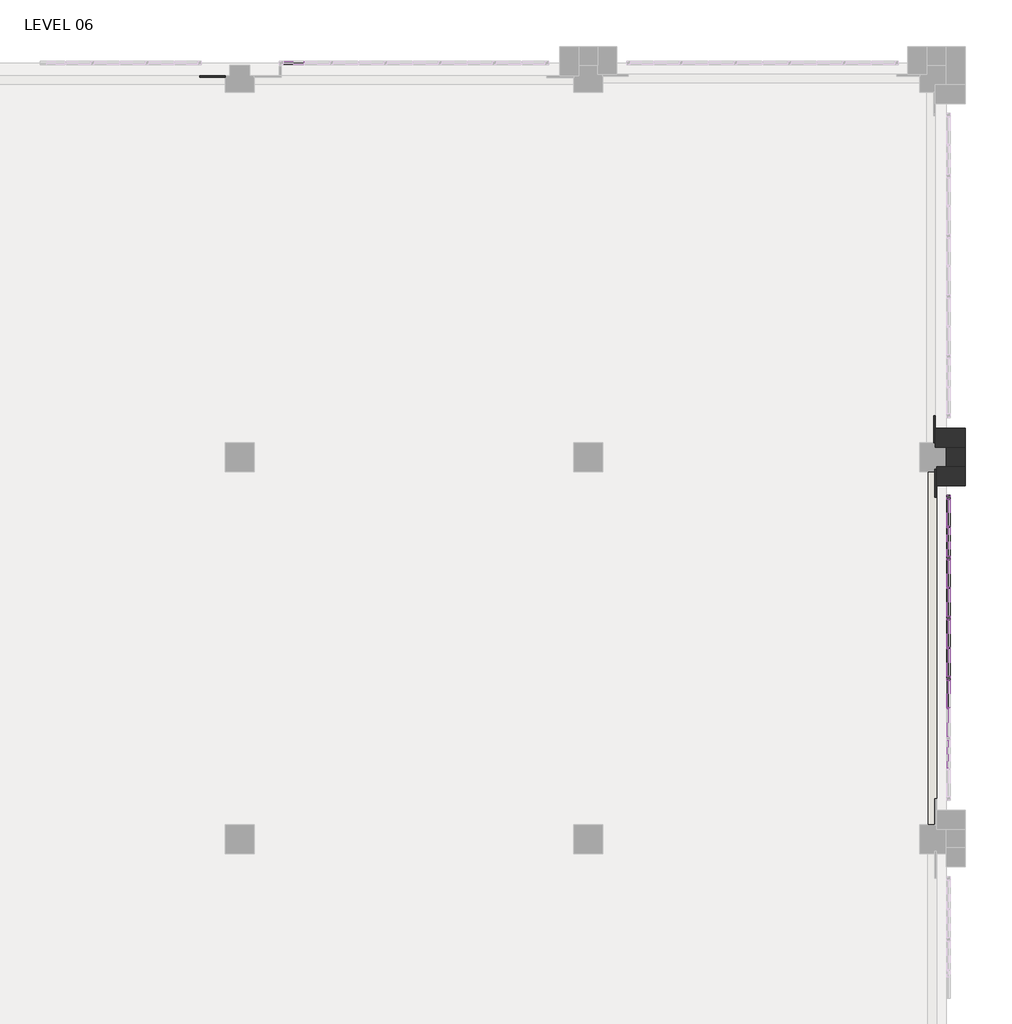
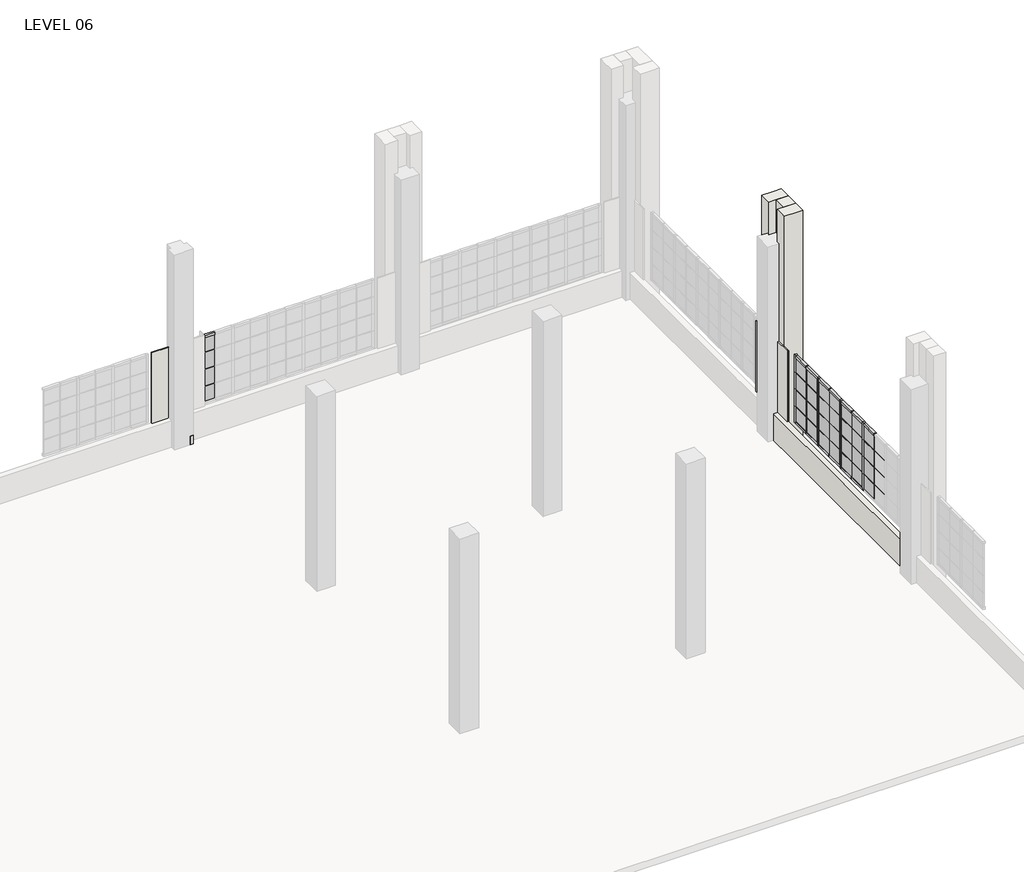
# One storey, part 12 of 16: 72 members, 32 plates, 9 walls.
"""IFC4 building model written with IfcOpenShell, lengths in millimetres."""

from ifc_helpers import new_model, si_unit, frame, origin, place, context, project, spatial, polyline, outline, extrude, faceted_brep, transform, mapped, element, save
from components import member_78bb2ef1, member_79ff4cf2, member_dcd82389, member_930b0c29, member_281dc502, member_a4d4728d, member_6c46afcd, member_65fed7da, member_58a7523c, member_378e0c06, member_17eb62f4, member_75ae02f4, member_fd366a57, member_550668b7, member_5f3aadc6, member_5fd36c82, system_panel_glazed_105315ef, system_panel_glazed_670b6ccd, system_panel_glazed_27d6f0f3, system_panel_glazed_9326cc08, system_panel_glazed_b07b32a6, system_panel_glazed_b8a51741, system_panel_glazed_43fb2a14, system_panel_glazed_6d31934f, system_panel_glazed_48f7cdc0, system_panel_glazed_905fb7e1, system_panel_glazed_3ac825b3, system_panel_glazed_c33bc469, system_panel_glazed_f5be7441, system_panel_glazed_02ab1c72, system_panel_glazed_c0b9dc67, system_panel_glazed_28fcd7fc

model = new_model("IFC4")

# Units and contexts
model_context = context("Model", 3, world=origin())
ifc_project = project(units=[si_unit("LENGTHUNIT", "METRE", prefix="MILLI")], contexts=[model_context])

# Site, building, storey
site = spatial("IfcSite", under=ifc_project)
building = spatial("IfcBuilding", under=site)
storey = spatial("IfcBuildingStorey", under=building, Name="LEVEL 06", Elevation=17449.8)

# Members
placement = place(None, origin())
member_shape = member_78bb2ef1(model_context)
element("IfcMember", 1, ObjectType="Rectangular Mullion : 1\" x 1\" - Butt Joint", at=placement, inside=storey, context=model_context, shape_type="MappedRepresentation", body=[
    mapped(member_shape, transform((-445.6849596, -14037.8198691, 19989.8), x_axis=(0.0, 1.0, 0.0), y_axis=(1.0, 0.0, 0.0), z_axis=(0.0, 0.0, -1.0))),
])
element("IfcMember", 2, ObjectType="Rectangular Mullion : 1\" x 1\" - Butt Joint", at=placement, inside=storey, context=model_context, shape_type="MappedRepresentation", body=[
    mapped(member_shape, transform((-445.6849596, -12765.6784779, 19989.8), x_axis=(0.0, 1.0, 0.0), y_axis=(1.0, 0.0, 0.0), z_axis=(0.0, 0.0, -1.0))),
])
element("IfcMember", 3, ObjectType="Rectangular Mullion : 1\" x 1\" - Butt Joint", at=placement, inside=storey, context=model_context, shape_type="MappedRepresentation", body=[
    mapped(member_shape, transform((-445.6849596, -11493.5370867, 19989.8), x_axis=(0.0, 1.0, 0.0), y_axis=(1.0, 0.0, 0.0), z_axis=(0.0, 0.0, -1.0))),
])
element("IfcMember", 4, ObjectType="Rectangular Mullion : 1\" x 1\" - Butt Joint", at=placement, inside=storey, context=model_context, shape_type="MappedRepresentation", body=[
    mapped(member_shape, transform((-445.6849596, -10208.6956956, 19989.8), x_axis=(0.0, 1.0, 0.0), y_axis=(1.0, 0.0, 0.0), z_axis=(0.0, 0.0, -1.0))),
])
element("IfcMember", 5, ObjectType="Rectangular Mullion : 1\" x 1\" - Butt Joint", at=placement, inside=storey, context=model_context, shape_type="MappedRepresentation", body=[
    mapped(member_shape, transform((-445.6849596, -14037.8198691, 18821.4), x_axis=(0.0, 1.0, 0.0), y_axis=(1.0, 0.0, 0.0), z_axis=(0.0, 0.0, -1.0))),
])
element("IfcMember", 6, ObjectType="Rectangular Mullion : 1\" x 1\" - Butt Joint", at=placement, inside=storey, context=model_context, shape_type="MappedRepresentation", body=[
    mapped(member_shape, transform((-445.6849596, -14037.8198691, 19405.6), x_axis=(0.0, 1.0, 0.0), y_axis=(1.0, 0.0, 0.0), z_axis=(0.0, 0.0, -1.0))),
])
element("IfcMember", 7, ObjectType="Rectangular Mullion : 1\" x 1\" - Butt Joint", at=placement, inside=storey, context=model_context, shape_type="MappedRepresentation", body=[
    mapped(member_shape, transform((-445.6849596, -12765.6784779, 18821.4), x_axis=(0.0, 1.0, 0.0), y_axis=(1.0, 0.0, 0.0), z_axis=(0.0, 0.0, -1.0))),
])
element("IfcMember", 8, ObjectType="Rectangular Mullion : 1\" x 1\" - Butt Joint", at=placement, inside=storey, context=model_context, shape_type="MappedRepresentation", body=[
    mapped(member_shape, transform((-445.6849596, -12765.6784779, 19405.6), x_axis=(0.0, 1.0, 0.0), y_axis=(1.0, 0.0, 0.0), z_axis=(0.0, 0.0, -1.0))),
])
element("IfcMember", 9, ObjectType="Rectangular Mullion : 1\" x 1\" - Butt Joint", at=placement, inside=storey, context=model_context, shape_type="MappedRepresentation", body=[
    mapped(member_shape, transform((-445.6849596, -11493.5370867, 18821.4), x_axis=(0.0, 1.0, 0.0), y_axis=(1.0, 0.0, 0.0), z_axis=(0.0, 0.0, -1.0))),
])
element("IfcMember", 10, ObjectType="Rectangular Mullion : 1\" x 1\" - Butt Joint", at=placement, inside=storey, context=model_context, shape_type="MappedRepresentation", body=[
    mapped(member_shape, transform((-445.6849596, -11493.5370867, 19405.6), x_axis=(0.0, 1.0, 0.0), y_axis=(1.0, 0.0, 0.0), z_axis=(0.0, 0.0, -1.0))),
])
element("IfcMember", 11, ObjectType="Rectangular Mullion : 1\" x 1\" - Butt Joint", at=placement, inside=storey, context=model_context, shape_type="MappedRepresentation", body=[
    mapped(member_shape, transform((-445.6849596, -10208.6956956, 18821.4), x_axis=(0.0, 1.0, 0.0), y_axis=(1.0, 0.0, 0.0), z_axis=(0.0, 0.0, -1.0))),
])
element("IfcMember", 12, ObjectType="Rectangular Mullion : 1\" x 1\" - Butt Joint", at=placement, inside=storey, context=model_context, shape_type="MappedRepresentation", body=[
    mapped(member_shape, transform((-445.6849596, -10208.6956956, 19405.6), x_axis=(0.0, 1.0, 0.0), y_axis=(1.0, 0.0, 0.0), z_axis=(0.0, 0.0, -1.0))),
])
element("IfcMember", 13, ObjectType="Rectangular Mullion : 1\" x 1\" - Butt Joint", at=placement, inside=storey, context=model_context, shape_type="MappedRepresentation", body=[
    mapped(member_shape, transform((-445.6849596, -14037.8198691, 18237.2), x_axis=(0.0, 1.0, 0.0), y_axis=(1.0, 0.0, 0.0), z_axis=(0.0, 0.0, -1.0))),
])
element("IfcMember", 14, ObjectType="Rectangular Mullion : 1\" x 1\" - Butt Joint", at=placement, inside=storey, context=model_context, shape_type="MappedRepresentation", body=[
    mapped(member_shape, transform((-445.6849596, -12765.6784779, 18237.2), x_axis=(0.0, 1.0, 0.0), y_axis=(1.0, 0.0, 0.0), z_axis=(0.0, 0.0, -1.0))),
])
element("IfcMember", 15, ObjectType="Rectangular Mullion : 1\" x 1\" - Butt Joint", at=placement, inside=storey, context=model_context, shape_type="MappedRepresentation", body=[
    mapped(member_shape, transform((-445.6849596, -11493.5370867, 18237.2), x_axis=(0.0, 1.0, 0.0), y_axis=(1.0, 0.0, 0.0), z_axis=(0.0, 0.0, -1.0))),
])
element("IfcMember", 16, ObjectType="Rectangular Mullion : 1\" x 1\" - Butt Joint", at=placement, inside=storey, context=model_context, shape_type="MappedRepresentation", body=[
    mapped(member_shape, transform((-445.6849596, -10208.6956956, 18237.2), x_axis=(0.0, 1.0, 0.0), y_axis=(1.0, 0.0, 0.0), z_axis=(0.0, 0.0, -1.0))),
])
member_2_shape = member_79ff4cf2(model_context)
element("IfcMember", 17, ObjectType="Rectangular Mullion : 1\" x 1\" - Butt Joint", at=placement, inside=storey, context=model_context, shape_type="MappedRepresentation", body=[
    mapped(member_2_shape, transform((-445.6849596, -9615.9095926, 19989.8), x_axis=(0.0, 0.0, 1.0), y_axis=(1.0, 0.0, 0.0), z_axis=(0.0, 1.0, 0.0))),
])
element("IfcMember", 18, ObjectType="Rectangular Mullion : 1\" x 1\" - Butt Joint", at=placement, inside=storey, context=model_context, shape_type="MappedRepresentation", body=[
    mapped(member_2_shape, transform((-445.6849596, -9615.9095926, 19405.6), x_axis=(0.0, 0.0, 1.0), y_axis=(1.0, 0.0, 0.0), z_axis=(0.0, 1.0, 0.0))),
])
element("IfcMember", 19, ObjectType="Rectangular Mullion : 1\" x 1\" - Butt Joint", at=placement, inside=storey, context=model_context, shape_type="MappedRepresentation", body=[
    mapped(member_2_shape, transform((-445.6849596, -9615.9095926, 18821.4), x_axis=(0.0, 0.0, 1.0), y_axis=(1.0, 0.0, 0.0), z_axis=(0.0, 1.0, 0.0))),
])
member_3_shape = member_dcd82389(model_context)
element("IfcMember", 20, ObjectType="Rectangular Mullion : 1\" x 1\" - Butt Joint", at=placement, inside=storey, context=model_context, shape_type="MappedRepresentation", body=[
    mapped(member_3_shape, transform((-445.6849596, -10900.3381864, 19989.8), x_axis=(0.0, 0.0, 1.0), y_axis=(1.0, 0.0, 0.0), z_axis=(0.0, 1.0, 0.0))),
])
element("IfcMember", 21, ObjectType="Rectangular Mullion : 1\" x 1\" - Butt Joint", at=placement, inside=storey, context=model_context, shape_type="MappedRepresentation", body=[
    mapped(member_3_shape, transform((-445.6849596, -10900.3381864, 19405.6), x_axis=(0.0, 0.0, 1.0), y_axis=(1.0, 0.0, 0.0), z_axis=(0.0, 1.0, 0.0))),
])
element("IfcMember", 22, ObjectType="Rectangular Mullion : 1\" x 1\" - Butt Joint", at=placement, inside=storey, context=model_context, shape_type="MappedRepresentation", body=[
    mapped(member_3_shape, transform((-445.6849596, -10900.3381864, 18821.4), x_axis=(0.0, 0.0, 1.0), y_axis=(1.0, 0.0, 0.0), z_axis=(0.0, 1.0, 0.0))),
])
member_4_shape = member_930b0c29(model_context)
element("IfcMember", 23, ObjectType="Rectangular Mullion : 1\" x 1\" - Butt Joint", at=placement, inside=storey, context=model_context, shape_type="MappedRepresentation", body=[
    mapped(member_4_shape, transform((-445.6849596, -10221.3956956, 19989.8), x_axis=(0.0, 0.0, 1.0), y_axis=(1.0, 0.0, 0.0), z_axis=(0.0, 1.0, 0.0))),
])
element("IfcMember", 24, ObjectType="Rectangular Mullion : 1\" x 1\" - Butt Joint", at=placement, inside=storey, context=model_context, shape_type="MappedRepresentation", body=[
    mapped(member_4_shape, transform((-445.6849596, -10221.3956956, 19405.6), x_axis=(0.0, 0.0, 1.0), y_axis=(1.0, 0.0, 0.0), z_axis=(0.0, 1.0, 0.0))),
])
element("IfcMember", 25, ObjectType="Rectangular Mullion : 1\" x 1\" - Butt Joint", at=placement, inside=storey, context=model_context, shape_type="MappedRepresentation", body=[
    mapped(member_4_shape, transform((-445.6849596, -10221.3956956, 18821.4), x_axis=(0.0, 0.0, 1.0), y_axis=(1.0, 0.0, 0.0), z_axis=(0.0, 1.0, 0.0))),
])
member_5_shape = member_281dc502(model_context)
element("IfcMember", 26, ObjectType="Rectangular Mullion : 1\" x 1\" - Butt Joint", at=placement, inside=storey, context=model_context, shape_type="MappedRepresentation", body=[
    mapped(member_5_shape, transform((-445.6849596, -11506.2370867, 19989.8), x_axis=(0.0, 0.0, 1.0), y_axis=(1.0, 0.0, 0.0), z_axis=(0.0, 1.0, 0.0))),
])
element("IfcMember", 27, ObjectType="Rectangular Mullion : 1\" x 1\" - Butt Joint", at=placement, inside=storey, context=model_context, shape_type="MappedRepresentation", body=[
    mapped(member_5_shape, transform((-445.6849596, -12778.3784779, 19989.8), x_axis=(0.0, 0.0, 1.0), y_axis=(1.0, 0.0, 0.0), z_axis=(0.0, 1.0, 0.0))),
])
element("IfcMember", 28, ObjectType="Rectangular Mullion : 1\" x 1\" - Butt Joint", at=placement, inside=storey, context=model_context, shape_type="MappedRepresentation", body=[
    mapped(member_5_shape, transform((-445.6849596, -11506.2370867, 19405.6), x_axis=(0.0, 0.0, 1.0), y_axis=(1.0, 0.0, 0.0), z_axis=(0.0, 1.0, 0.0))),
])
element("IfcMember", 29, ObjectType="Rectangular Mullion : 1\" x 1\" - Butt Joint", at=placement, inside=storey, context=model_context, shape_type="MappedRepresentation", body=[
    mapped(member_5_shape, transform((-445.6849596, -12778.3784779, 19405.6), x_axis=(0.0, 0.0, 1.0), y_axis=(1.0, 0.0, 0.0), z_axis=(0.0, 1.0, 0.0))),
])
element("IfcMember", 30, ObjectType="Rectangular Mullion : 1\" x 1\" - Butt Joint", at=placement, inside=storey, context=model_context, shape_type="MappedRepresentation", body=[
    mapped(member_5_shape, transform((-445.6849596, -11506.2370867, 18821.4), x_axis=(0.0, 0.0, 1.0), y_axis=(1.0, 0.0, 0.0), z_axis=(0.0, 1.0, 0.0))),
])
element("IfcMember", 31, ObjectType="Rectangular Mullion : 1\" x 1\" - Butt Joint", at=placement, inside=storey, context=model_context, shape_type="MappedRepresentation", body=[
    mapped(member_5_shape, transform((-445.6849596, -12778.3784779, 18821.4), x_axis=(0.0, 0.0, 1.0), y_axis=(1.0, 0.0, 0.0), z_axis=(0.0, 1.0, 0.0))),
])
member_6_shape = member_a4d4728d(model_context)
element("IfcMember", 32, ObjectType="Rectangular Mullion : 1\" x 1\" - Butt Joint", at=placement, inside=storey, context=model_context, shape_type="MappedRepresentation", body=[
    mapped(member_6_shape, transform((-445.6849596, -12170.3359241, 19989.8), x_axis=(0.0, 0.0, 1.0), y_axis=(1.0, 0.0, 0.0), z_axis=(0.0, 1.0, 0.0))),
])
element("IfcMember", 33, ObjectType="Rectangular Mullion : 1\" x 1\" - Butt Joint", at=placement, inside=storey, context=model_context, shape_type="MappedRepresentation", body=[
    mapped(member_6_shape, transform((-445.6849596, -13442.5580105, 19989.8), x_axis=(0.0, 0.0, 1.0), y_axis=(1.0, 0.0, 0.0), z_axis=(0.0, 1.0, 0.0))),
])
element("IfcMember", 34, ObjectType="Rectangular Mullion : 1\" x 1\" - Butt Joint", at=placement, inside=storey, context=model_context, shape_type="MappedRepresentation", body=[
    mapped(member_6_shape, transform((-445.6849596, -12170.3359241, 19405.6), x_axis=(0.0, 0.0, 1.0), y_axis=(1.0, 0.0, 0.0), z_axis=(0.0, 1.0, 0.0))),
])
element("IfcMember", 35, ObjectType="Rectangular Mullion : 1\" x 1\" - Butt Joint", at=placement, inside=storey, context=model_context, shape_type="MappedRepresentation", body=[
    mapped(member_6_shape, transform((-445.6849596, -13442.5580105, 19405.6), x_axis=(0.0, 0.0, 1.0), y_axis=(1.0, 0.0, 0.0), z_axis=(0.0, 1.0, 0.0))),
])
element("IfcMember", 36, ObjectType="Rectangular Mullion : 1\" x 1\" - Butt Joint", at=placement, inside=storey, context=model_context, shape_type="MappedRepresentation", body=[
    mapped(member_6_shape, transform((-445.6849596, -12170.3359241, 18821.4), x_axis=(0.0, 0.0, 1.0), y_axis=(1.0, 0.0, 0.0), z_axis=(0.0, 1.0, 0.0))),
])
element("IfcMember", 37, ObjectType="Rectangular Mullion : 1\" x 1\" - Butt Joint", at=placement, inside=storey, context=model_context, shape_type="MappedRepresentation", body=[
    mapped(member_6_shape, transform((-445.6849596, -13442.5580105, 18821.4), x_axis=(0.0, 0.0, 1.0), y_axis=(1.0, 0.0, 0.0), z_axis=(0.0, 1.0, 0.0))),
])
member_7_shape = member_6c46afcd(model_context)
element("IfcMember", 38, ObjectType="Rectangular Mullion : 1\" x 1\" - Butt Joint", at=placement, inside=storey, context=model_context, shape_type="MappedRepresentation", body=[
    mapped(member_7_shape, transform((-445.6849596, -14050.5198691, 19989.8), x_axis=(0.0, 0.0, 1.0), y_axis=(1.0, 0.0, 0.0), z_axis=(0.0, 1.0, 0.0))),
])
element("IfcMember", 39, ObjectType="Rectangular Mullion : 1\" x 1\" - Butt Joint", at=placement, inside=storey, context=model_context, shape_type="MappedRepresentation", body=[
    mapped(member_7_shape, transform((-445.6849596, -14050.5198691, 19405.6), x_axis=(0.0, 0.0, 1.0), y_axis=(1.0, 0.0, 0.0), z_axis=(0.0, 1.0, 0.0))),
])
element("IfcMember", 40, ObjectType="Rectangular Mullion : 1\" x 1\" - Butt Joint", at=placement, inside=storey, context=model_context, shape_type="MappedRepresentation", body=[
    mapped(member_7_shape, transform((-445.6849596, -14050.5198691, 18821.4), x_axis=(0.0, 0.0, 1.0), y_axis=(1.0, 0.0, 0.0), z_axis=(0.0, 1.0, 0.0))),
])
member_8_shape = member_65fed7da(model_context)
element("IfcMember", 41, ObjectType="Rectangular Mullion : 1\" x 1\" - Butt Joint", at=placement, inside=storey, context=model_context, shape_type="MappedRepresentation", body=[
    mapped(member_8_shape, transform((-445.6849596, -14718.1074832, 19405.6), x_axis=(0.0, 0.0, 1.0), y_axis=(1.0, 0.0, 0.0), z_axis=(0.0, 1.0, 0.0))),
])
element("IfcMember", 42, ObjectType="Rectangular Mullion : 1\" x 1\" - Butt Joint", at=placement, inside=storey, context=model_context, shape_type="MappedRepresentation", body=[
    mapped(member_8_shape, transform((-445.6849596, -14718.1074832, 18821.4), x_axis=(0.0, 0.0, 1.0), y_axis=(1.0, 0.0, 0.0), z_axis=(0.0, 1.0, 0.0))),
])
member_9_shape = member_58a7523c(model_context)
element("IfcMember", 43, ObjectType="Rectangular Mullion : 3\" x 3\" Window Jamb", at=placement, inside=storey, context=model_context, shape_type="MappedRepresentation", body=[
    mapped(member_9_shape, transform((-14064.4571519, -412.75, 20574.0), x_axis=(0.0, 0.0, 1.0), y_axis=(0.0, -1.0, 0.0), z_axis=(1.0, 0.0, 0.0))),
])
member_10_shape = member_378e0c06(model_context)
element("IfcMember", 44, ObjectType="Rectangular Mullion : 3\" x 3\" Window Jamb", at=placement, inside=storey, context=model_context, shape_type="MappedRepresentation", body=[
    mapped(member_10_shape, transform((-445.6849596, -13404.4580105, 19989.8), x_axis=(0.0, 1.0, 0.0), y_axis=(1.0, 0.0, 0.0), z_axis=(0.0, 0.0, -1.0))),
])
element("IfcMember", 45, ObjectType="Rectangular Mullion : 3\" x 3\" Window Jamb", at=placement, inside=storey, context=model_context, shape_type="MappedRepresentation", body=[
    mapped(member_10_shape, transform((-445.6849596, -12132.2359241, 19989.8), x_axis=(0.0, 1.0, 0.0), y_axis=(1.0, 0.0, 0.0), z_axis=(0.0, 0.0, -1.0))),
])
element("IfcMember", 46, ObjectType="Rectangular Mullion : 3\" x 3\" Window Jamb", at=placement, inside=storey, context=model_context, shape_type="MappedRepresentation", body=[
    mapped(member_10_shape, transform((-445.6849596, -10862.2381864, 19989.8), x_axis=(0.0, 1.0, 0.0), y_axis=(1.0, 0.0, 0.0), z_axis=(0.0, 0.0, -1.0))),
])
member_11_shape = member_17eb62f4(model_context)
element("IfcMember", 47, ObjectType="Rectangular Mullion : 3\" x 3\" Window Jamb", at=placement, inside=storey, context=model_context, shape_type="MappedRepresentation", body=[
    mapped(member_11_shape, transform((-445.6849596, -9539.7095926, 19989.8), x_axis=(0.0, 1.0, 0.0), y_axis=(1.0, 0.0, 0.0), z_axis=(0.0, 0.0, -1.0))),
])
element("IfcMember", 48, ObjectType="Rectangular Mullion : 3\" x 3\" Window Jamb", at=placement, inside=storey, context=model_context, shape_type="MappedRepresentation", body=[
    mapped(member_10_shape, transform((-445.6849596, -13404.4580105, 18821.4), x_axis=(0.0, 1.0, 0.0), y_axis=(1.0, 0.0, 0.0), z_axis=(0.0, 0.0, -1.0))),
])
element("IfcMember", 49, ObjectType="Rectangular Mullion : 3\" x 3\" Window Jamb", at=placement, inside=storey, context=model_context, shape_type="MappedRepresentation", body=[
    mapped(member_10_shape, transform((-445.6849596, -13404.4580105, 19405.6), x_axis=(0.0, 1.0, 0.0), y_axis=(1.0, 0.0, 0.0), z_axis=(0.0, 0.0, -1.0))),
])
element("IfcMember", 50, ObjectType="Rectangular Mullion : 3\" x 3\" Window Jamb", at=placement, inside=storey, context=model_context, shape_type="MappedRepresentation", body=[
    mapped(member_10_shape, transform((-445.6849596, -12132.2359241, 18821.4), x_axis=(0.0, 1.0, 0.0), y_axis=(1.0, 0.0, 0.0), z_axis=(0.0, 0.0, -1.0))),
])
element("IfcMember", 51, ObjectType="Rectangular Mullion : 3\" x 3\" Window Jamb", at=placement, inside=storey, context=model_context, shape_type="MappedRepresentation", body=[
    mapped(member_10_shape, transform((-445.6849596, -12132.2359241, 19405.6), x_axis=(0.0, 1.0, 0.0), y_axis=(1.0, 0.0, 0.0), z_axis=(0.0, 0.0, -1.0))),
])
element("IfcMember", 52, ObjectType="Rectangular Mullion : 3\" x 3\" Window Jamb", at=placement, inside=storey, context=model_context, shape_type="MappedRepresentation", body=[
    mapped(member_10_shape, transform((-445.6849596, -10862.2381864, 18821.4), x_axis=(0.0, 1.0, 0.0), y_axis=(1.0, 0.0, 0.0), z_axis=(0.0, 0.0, -1.0))),
])
element("IfcMember", 53, ObjectType="Rectangular Mullion : 3\" x 3\" Window Jamb", at=placement, inside=storey, context=model_context, shape_type="MappedRepresentation", body=[
    mapped(member_10_shape, transform((-445.6849596, -10862.2381864, 19405.6), x_axis=(0.0, 1.0, 0.0), y_axis=(1.0, 0.0, 0.0), z_axis=(0.0, 0.0, -1.0))),
])
element("IfcMember", 54, ObjectType="Rectangular Mullion : 3\" x 3\" Window Jamb", at=placement, inside=storey, context=model_context, shape_type="MappedRepresentation", body=[
    mapped(member_11_shape, transform((-445.6849596, -9539.7095926, 18821.4), x_axis=(0.0, 1.0, 0.0), y_axis=(1.0, 0.0, 0.0), z_axis=(0.0, 0.0, -1.0))),
])
element("IfcMember", 55, ObjectType="Rectangular Mullion : 3\" x 3\" Window Jamb", at=placement, inside=storey, context=model_context, shape_type="MappedRepresentation", body=[
    mapped(member_11_shape, transform((-445.6849596, -9539.7095926, 19405.6), x_axis=(0.0, 1.0, 0.0), y_axis=(1.0, 0.0, 0.0), z_axis=(0.0, 0.0, -1.0))),
])
element("IfcMember", 56, ObjectType="Rectangular Mullion : 3\" x 3\" Window Jamb", at=placement, inside=storey, context=model_context, shape_type="MappedRepresentation", body=[
    mapped(member_10_shape, transform((-445.6849596, -13404.4580105, 18237.2), x_axis=(0.0, 1.0, 0.0), y_axis=(1.0, 0.0, 0.0), z_axis=(0.0, 0.0, -1.0))),
])
element("IfcMember", 57, ObjectType="Rectangular Mullion : 3\" x 3\" Window Jamb", at=placement, inside=storey, context=model_context, shape_type="MappedRepresentation", body=[
    mapped(member_10_shape, transform((-445.6849596, -12132.2359241, 18237.2), x_axis=(0.0, 1.0, 0.0), y_axis=(1.0, 0.0, 0.0), z_axis=(0.0, 0.0, -1.0))),
])
element("IfcMember", 58, ObjectType="Rectangular Mullion : 3\" x 3\" Window Jamb", at=placement, inside=storey, context=model_context, shape_type="MappedRepresentation", body=[
    mapped(member_10_shape, transform((-445.6849596, -10862.2381864, 18237.2), x_axis=(0.0, 1.0, 0.0), y_axis=(1.0, 0.0, 0.0), z_axis=(0.0, 0.0, -1.0))),
])
element("IfcMember", 59, ObjectType="Rectangular Mullion : 3\" x 3\" Window Jamb", at=placement, inside=storey, context=model_context, shape_type="MappedRepresentation", body=[
    mapped(member_11_shape, transform((-445.6849596, -9539.7095926, 18237.2), x_axis=(0.0, 1.0, 0.0), y_axis=(1.0, 0.0, 0.0), z_axis=(0.0, 0.0, -1.0))),
])
member_12_shape = member_75ae02f4(model_context)
element("IfcMember", 60, ObjectType="Rectangular Mullion : 3\" x 3\" Window Jamb", at=placement, inside=storey, context=model_context, shape_type="MappedRepresentation", body=[
    mapped(member_12_shape, transform((-445.6849596, -9615.9095926, 20574.0), x_axis=(0.0, 0.0, 1.0), y_axis=(1.0, 0.0, 0.0), z_axis=(0.0, 1.0, 0.0))),
])
element("IfcMember", 61, ObjectType="Rectangular Mullion : 3\" x 3\" Window Jamb", at=placement, inside=storey, context=model_context, shape_type="MappedRepresentation", body=[
    mapped(member_12_shape, transform((-445.6849596, -10195.9956956, 18237.2), x_axis=(0.0, 0.0, -1.0), y_axis=(1.0, 0.0, 0.0), z_axis=(0.0, -1.0, 0.0))),
])
member_13_shape = member_fd366a57(model_context)
element("IfcMember", 62, ObjectType="Rectangular Mullion : 3\" x 3\" Window Jamb", at=placement, inside=storey, context=model_context, shape_type="MappedRepresentation", body=[
    mapped(member_13_shape, transform((-445.6849596, -10900.3381864, 20574.0), x_axis=(0.0, 0.0, 1.0), y_axis=(1.0, 0.0, 0.0), z_axis=(0.0, 1.0, 0.0))),
])
element("IfcMember", 63, ObjectType="Rectangular Mullion : 3\" x 3\" Window Jamb", at=placement, inside=storey, context=model_context, shape_type="MappedRepresentation", body=[
    mapped(member_13_shape, transform((-445.6849596, -11480.8370867, 18237.2), x_axis=(0.0, 0.0, -1.0), y_axis=(1.0, 0.0, 0.0), z_axis=(0.0, -1.0, 0.0))),
])
member_14_shape = member_550668b7(model_context)
element("IfcMember", 64, ObjectType="Rectangular Mullion : 3\" x 3\" Window Jamb", at=placement, inside=storey, context=model_context, shape_type="MappedRepresentation", body=[
    mapped(member_14_shape, transform((-445.6849596, -10221.3956956, 20574.0), x_axis=(0.0, 0.0, 1.0), y_axis=(1.0, 0.0, 0.0), z_axis=(0.0, 1.0, 0.0))),
])
element("IfcMember", 65, ObjectType="Rectangular Mullion : 3\" x 3\" Window Jamb", at=placement, inside=storey, context=model_context, shape_type="MappedRepresentation", body=[
    mapped(member_14_shape, transform((-445.6849596, -10824.1381864, 18237.2), x_axis=(0.0, 0.0, -1.0), y_axis=(1.0, 0.0, 0.0), z_axis=(0.0, -1.0, 0.0))),
])
member_15_shape = member_5f3aadc6(model_context)
element("IfcMember", 66, ObjectType="Rectangular Mullion : 3\" x 3\" Window Jamb", at=placement, inside=storey, context=model_context, shape_type="MappedRepresentation", body=[
    mapped(member_15_shape, transform((-445.6849596, -11506.2370867, 20574.0), x_axis=(0.0, 0.0, 1.0), y_axis=(1.0, 0.0, 0.0), z_axis=(0.0, 1.0, 0.0))),
])
element("IfcMember", 67, ObjectType="Rectangular Mullion : 3\" x 3\" Window Jamb", at=placement, inside=storey, context=model_context, shape_type="MappedRepresentation", body=[
    mapped(member_15_shape, transform((-445.6849596, -12778.3784779, 20574.0), x_axis=(0.0, 0.0, 1.0), y_axis=(1.0, 0.0, 0.0), z_axis=(0.0, 1.0, 0.0))),
])
element("IfcMember", 68, ObjectType="Rectangular Mullion : 3\" x 3\" Window Jamb", at=placement, inside=storey, context=model_context, shape_type="MappedRepresentation", body=[
    mapped(member_15_shape, transform((-445.6849596, -12094.1359241, 18237.2), x_axis=(0.0, 0.0, -1.0), y_axis=(1.0, 0.0, 0.0), z_axis=(0.0, -1.0, 0.0))),
])
element("IfcMember", 69, ObjectType="Rectangular Mullion : 3\" x 3\" Window Jamb", at=placement, inside=storey, context=model_context, shape_type="MappedRepresentation", body=[
    mapped(member_15_shape, transform((-445.6849596, -13366.3580105, 18237.2), x_axis=(0.0, 0.0, -1.0), y_axis=(1.0, 0.0, 0.0), z_axis=(0.0, -1.0, 0.0))),
])
member_16_shape = member_5fd36c82(model_context)
element("IfcMember", 70, ObjectType="Rectangular Mullion : 3\" x 3\" Window Jamb", at=placement, inside=storey, context=model_context, shape_type="MappedRepresentation", body=[
    mapped(member_16_shape, transform((-445.6849596, -12170.3359241, 20574.0), x_axis=(0.0, 0.0, 1.0), y_axis=(1.0, 0.0, 0.0), z_axis=(0.0, 1.0, 0.0))),
])
element("IfcMember", 71, ObjectType="Rectangular Mullion : 3\" x 3\" Window Jamb", at=placement, inside=storey, context=model_context, shape_type="MappedRepresentation", body=[
    mapped(member_16_shape, transform((-445.6849596, -13442.5580105, 20574.0), x_axis=(0.0, 0.0, 1.0), y_axis=(1.0, 0.0, 0.0), z_axis=(0.0, 1.0, 0.0))),
])
element("IfcMember", 72, ObjectType="Rectangular Mullion : 3\" x 3\" Window Jamb", at=placement, inside=storey, context=model_context, shape_type="MappedRepresentation", body=[
    mapped(member_16_shape, transform((-445.6849596, -12752.9784779, 18237.2), x_axis=(0.0, 0.0, -1.0), y_axis=(1.0, 0.0, 0.0), z_axis=(0.0, -1.0, 0.0))),
])

# Plates
system_panel_glazed_shape = system_panel_glazed_105315ef(model_context)
element("IfcPlate", 73, ObjectType="System Panel : Glazed", at=placement, inside=storey, context=model_context, shape_type="MappedRepresentation", body=[
    mapped(system_panel_glazed_shape, transform((-445.6849596, -13072.3682442, 18313.4), x_axis=(0.0, 1.0, 0.0), y_axis=(-1.0, 0.0, 0.0), z_axis=(0.0, 0.0, 1.0))),
])
element("IfcPlate", 74, ObjectType="System Panel : Glazed", at=placement, inside=storey, context=model_context, shape_type="MappedRepresentation", body=[
    mapped(system_panel_glazed_shape, transform((-445.6849596, -13072.3682442, 20002.5), x_axis=(0.0, 1.0, 0.0), y_axis=(-1.0, 0.0, 0.0), z_axis=(0.0, 0.0, 1.0))),
])
system_panel_glazed_2_shape = system_panel_glazed_670b6ccd(model_context)
element("IfcPlate", 75, ObjectType="System Panel : Glazed", at=placement, inside=storey, context=model_context, shape_type="MappedRepresentation", body=[
    mapped(system_panel_glazed_2_shape, transform((-445.6849596, -11800.1865054, 18313.4), x_axis=(0.0, 1.0, 0.0), y_axis=(-1.0, 0.0, 0.0), z_axis=(0.0, 0.0, 1.0))),
])
element("IfcPlate", 76, ObjectType="System Panel : Glazed", at=placement, inside=storey, context=model_context, shape_type="MappedRepresentation", body=[
    mapped(system_panel_glazed_2_shape, transform((-445.6849596, -11800.1865054, 20002.5), x_axis=(0.0, 1.0, 0.0), y_axis=(-1.0, 0.0, 0.0), z_axis=(0.0, 0.0, 1.0))),
])
system_panel_glazed_3_shape = system_panel_glazed_27d6f0f3(model_context)
element("IfcPlate", 77, ObjectType="System Panel : Glazed", at=placement, inside=storey, context=model_context, shape_type="MappedRepresentation", body=[
    mapped(system_panel_glazed_3_shape, transform((-445.6849596, -10522.766941, 18313.4), x_axis=(0.0, 1.0, 0.0), y_axis=(-1.0, 0.0, 0.0), z_axis=(0.0, 0.0, 1.0))),
])
element("IfcPlate", 78, ObjectType="System Panel : Glazed", at=placement, inside=storey, context=model_context, shape_type="MappedRepresentation", body=[
    mapped(system_panel_glazed_3_shape, transform((-445.6849596, -10522.766941, 20002.5), x_axis=(0.0, 1.0, 0.0), y_axis=(-1.0, 0.0, 0.0), z_axis=(0.0, 0.0, 1.0))),
])
system_panel_glazed_4_shape = system_panel_glazed_9326cc08(model_context)
element("IfcPlate", 79, ObjectType="System Panel : Glazed", at=placement, inside=storey, context=model_context, shape_type="MappedRepresentation", body=[
    mapped(system_panel_glazed_4_shape, transform((-445.6849596, -13072.3682442, 19418.3), x_axis=(0.0, 1.0, 0.0), y_axis=(-1.0, 0.0, 0.0), z_axis=(0.0, 0.0, 1.0))),
])
element("IfcPlate", 80, ObjectType="System Panel : Glazed", at=placement, inside=storey, context=model_context, shape_type="MappedRepresentation", body=[
    mapped(system_panel_glazed_4_shape, transform((-445.6849596, -13072.3682442, 18834.1), x_axis=(0.0, 1.0, 0.0), y_axis=(-1.0, 0.0, 0.0), z_axis=(0.0, 0.0, 1.0))),
])
system_panel_glazed_5_shape = system_panel_glazed_b07b32a6(model_context)
element("IfcPlate", 81, ObjectType="System Panel : Glazed", at=placement, inside=storey, context=model_context, shape_type="MappedRepresentation", body=[
    mapped(system_panel_glazed_5_shape, transform((-445.6849596, -11800.1865054, 19418.3), x_axis=(0.0, 1.0, 0.0), y_axis=(-1.0, 0.0, 0.0), z_axis=(0.0, 0.0, 1.0))),
])
element("IfcPlate", 82, ObjectType="System Panel : Glazed", at=placement, inside=storey, context=model_context, shape_type="MappedRepresentation", body=[
    mapped(system_panel_glazed_5_shape, transform((-445.6849596, -11800.1865054, 18834.1), x_axis=(0.0, 1.0, 0.0), y_axis=(-1.0, 0.0, 0.0), z_axis=(0.0, 0.0, 1.0))),
])
system_panel_glazed_6_shape = system_panel_glazed_b8a51741(model_context)
element("IfcPlate", 83, ObjectType="System Panel : Glazed", at=placement, inside=storey, context=model_context, shape_type="MappedRepresentation", body=[
    mapped(system_panel_glazed_6_shape, transform((-445.6849596, -10522.766941, 19418.3), x_axis=(0.0, 1.0, 0.0), y_axis=(-1.0, 0.0, 0.0), z_axis=(0.0, 0.0, 1.0))),
])
element("IfcPlate", 84, ObjectType="System Panel : Glazed", at=placement, inside=storey, context=model_context, shape_type="MappedRepresentation", body=[
    mapped(system_panel_glazed_6_shape, transform((-445.6849596, -10522.766941, 18834.1), x_axis=(0.0, 1.0, 0.0), y_axis=(-1.0, 0.0, 0.0), z_axis=(0.0, 0.0, 1.0))),
])
system_panel_glazed_7_shape = system_panel_glazed_43fb2a14(model_context)
element("IfcPlate", 85, ObjectType="System Panel : Glazed", at=placement, inside=storey, context=model_context, shape_type="MappedRepresentation", body=[
    mapped(system_panel_glazed_7_shape, transform((-445.6849596, -13733.8389398, 18313.4), x_axis=(0.0, 1.0, 0.0), y_axis=(-1.0, 0.0, 0.0), z_axis=(0.0, 0.0, 1.0))),
])
element("IfcPlate", 86, ObjectType="System Panel : Glazed", at=placement, inside=storey, context=model_context, shape_type="MappedRepresentation", body=[
    mapped(system_panel_glazed_7_shape, transform((-445.6849596, -13733.8389398, 20002.5), x_axis=(0.0, 1.0, 0.0), y_axis=(-1.0, 0.0, 0.0), z_axis=(0.0, 0.0, 1.0))),
])
system_panel_glazed_8_shape = system_panel_glazed_6d31934f(model_context)
element("IfcPlate", 87, ObjectType="System Panel : Glazed", at=placement, inside=storey, context=model_context, shape_type="MappedRepresentation", body=[
    mapped(system_panel_glazed_8_shape, transform((-445.6849596, -13733.8389398, 18834.1), x_axis=(0.0, 1.0, 0.0), y_axis=(-1.0, 0.0, 0.0), z_axis=(0.0, 0.0, 1.0))),
])
element("IfcPlate", 88, ObjectType="System Panel : Glazed", at=placement, inside=storey, context=model_context, shape_type="MappedRepresentation", body=[
    mapped(system_panel_glazed_8_shape, transform((-445.6849596, -13733.8389398, 19418.3), x_axis=(0.0, 1.0, 0.0), y_axis=(-1.0, 0.0, 0.0), z_axis=(0.0, 0.0, 1.0))),
])
system_panel_glazed_9_shape = system_panel_glazed_48f7cdc0(model_context)
element("IfcPlate", 89, ObjectType="System Panel : Glazed", at=placement, inside=storey, context=model_context, shape_type="MappedRepresentation", body=[
    mapped(system_panel_glazed_9_shape, transform((-445.6849596, -12461.657201, 18313.4), x_axis=(0.0, 1.0, 0.0), y_axis=(-1.0, 0.0, 0.0), z_axis=(0.0, 0.0, 1.0))),
])
element("IfcPlate", 90, ObjectType="System Panel : Glazed", at=placement, inside=storey, context=model_context, shape_type="MappedRepresentation", body=[
    mapped(system_panel_glazed_9_shape, transform((-445.6849596, -12461.657201, 20002.5), x_axis=(0.0, 1.0, 0.0), y_axis=(-1.0, 0.0, 0.0), z_axis=(0.0, 0.0, 1.0))),
])
system_panel_glazed_10_shape = system_panel_glazed_905fb7e1(model_context)
element("IfcPlate", 91, ObjectType="System Panel : Glazed", at=placement, inside=storey, context=model_context, shape_type="MappedRepresentation", body=[
    mapped(system_panel_glazed_10_shape, transform((-445.6849596, -12461.657201, 18834.1), x_axis=(0.0, 1.0, 0.0), y_axis=(-1.0, 0.0, 0.0), z_axis=(0.0, 0.0, 1.0))),
])
element("IfcPlate", 92, ObjectType="System Panel : Glazed", at=placement, inside=storey, context=model_context, shape_type="MappedRepresentation", body=[
    mapped(system_panel_glazed_10_shape, transform((-445.6849596, -12461.657201, 19418.3), x_axis=(0.0, 1.0, 0.0), y_axis=(-1.0, 0.0, 0.0), z_axis=(0.0, 0.0, 1.0))),
])
system_panel_glazed_11_shape = system_panel_glazed_3ac825b3(model_context)
element("IfcPlate", 93, ObjectType="System Panel : Glazed", at=placement, inside=storey, context=model_context, shape_type="MappedRepresentation", body=[
    mapped(system_panel_glazed_11_shape, transform((-445.6849596, -11190.5876366, 18313.4), x_axis=(0.0, 1.0, 0.0), y_axis=(-1.0, 0.0, 0.0), z_axis=(0.0, 0.0, 1.0))),
])
element("IfcPlate", 94, ObjectType="System Panel : Glazed", at=placement, inside=storey, context=model_context, shape_type="MappedRepresentation", body=[
    mapped(system_panel_glazed_11_shape, transform((-445.6849596, -11190.5876366, 20002.5), x_axis=(0.0, 1.0, 0.0), y_axis=(-1.0, 0.0, 0.0), z_axis=(0.0, 0.0, 1.0))),
])
system_panel_glazed_12_shape = system_panel_glazed_c33bc469(model_context)
element("IfcPlate", 95, ObjectType="System Panel : Glazed", at=placement, inside=storey, context=model_context, shape_type="MappedRepresentation", body=[
    mapped(system_panel_glazed_12_shape, transform((-445.6849596, -11190.5876366, 18834.1), x_axis=(0.0, 1.0, 0.0), y_axis=(-1.0, 0.0, 0.0), z_axis=(0.0, 0.0, 1.0))),
])
element("IfcPlate", 96, ObjectType="System Panel : Glazed", at=placement, inside=storey, context=model_context, shape_type="MappedRepresentation", body=[
    mapped(system_panel_glazed_12_shape, transform((-445.6849596, -11190.5876366, 19418.3), x_axis=(0.0, 1.0, 0.0), y_axis=(-1.0, 0.0, 0.0), z_axis=(0.0, 0.0, 1.0))),
])
system_panel_glazed_13_shape = system_panel_glazed_f5be7441(model_context)
element("IfcPlate", 97, ObjectType="System Panel : Glazed", at=placement, inside=storey, context=model_context, shape_type="MappedRepresentation", body=[
    mapped(system_panel_glazed_13_shape, transform((-445.6849596, -9905.9526441, 18313.4), x_axis=(0.0, 1.0, 0.0), y_axis=(-1.0, 0.0, 0.0), z_axis=(0.0, 0.0, 1.0))),
])
element("IfcPlate", 98, ObjectType="System Panel : Glazed", at=placement, inside=storey, context=model_context, shape_type="MappedRepresentation", body=[
    mapped(system_panel_glazed_13_shape, transform((-445.6849596, -9905.9526441, 20002.5), x_axis=(0.0, 1.0, 0.0), y_axis=(-1.0, 0.0, 0.0), z_axis=(0.0, 0.0, 1.0))),
])
system_panel_glazed_14_shape = system_panel_glazed_02ab1c72(model_context)
element("IfcPlate", 99, ObjectType="System Panel : Glazed", at=placement, inside=storey, context=model_context, shape_type="MappedRepresentation", body=[
    mapped(system_panel_glazed_14_shape, transform((-445.6849596, -9905.9526441, 18834.1), x_axis=(0.0, 1.0, 0.0), y_axis=(-1.0, 0.0, 0.0), z_axis=(0.0, 0.0, 1.0))),
])
element("IfcPlate", 100, ObjectType="System Panel : Glazed", at=placement, inside=storey, context=model_context, shape_type="MappedRepresentation", body=[
    mapped(system_panel_glazed_14_shape, transform((-445.6849596, -9905.9526441, 19418.3), x_axis=(0.0, 1.0, 0.0), y_axis=(-1.0, 0.0, 0.0), z_axis=(0.0, 0.0, 1.0))),
])
system_panel_glazed_15_shape = system_panel_glazed_c0b9dc67(model_context)
element("IfcPlate", 101, ObjectType="System Panel : Glazed", at=placement, inside=storey, context=model_context, shape_type="MappedRepresentation", body=[
    mapped(system_panel_glazed_15_shape, transform((-14281.6271519, -412.75, 18313.4), x_axis=(1.0, 0.0, 0.0), y_axis=(0.0, 1.0, 0.0), z_axis=(0.0, 0.0, 1.0))),
])
element("IfcPlate", 102, ObjectType="System Panel : Glazed", at=placement, inside=storey, context=model_context, shape_type="MappedRepresentation", body=[
    mapped(system_panel_glazed_15_shape, transform((-14281.6271519, -412.75, 20002.5), x_axis=(1.0, 0.0, 0.0), y_axis=(0.0, 1.0, 0.0), z_axis=(0.0, 0.0, 1.0))),
])
system_panel_glazed_16_shape = system_panel_glazed_28fcd7fc(model_context)
element("IfcPlate", 103, ObjectType="System Panel : Glazed", at=placement, inside=storey, context=model_context, shape_type="MappedRepresentation", body=[
    mapped(system_panel_glazed_16_shape, transform((-14281.6271519, -412.75, 19418.3), x_axis=(1.0, 0.0, 0.0), y_axis=(0.0, 1.0, 0.0), z_axis=(0.0, 0.0, 1.0))),
])
element("IfcPlate", 104, ObjectType="System Panel : Glazed", at=placement, inside=storey, context=model_context, shape_type="MappedRepresentation", body=[
    mapped(system_panel_glazed_16_shape, transform((-14281.6271519, -412.75, 18834.1), x_axis=(1.0, 0.0, 0.0), y_axis=(0.0, 1.0, 0.0), z_axis=(0.0, 0.0, 1.0))),
])

# Walls
element("IfcWall", 105, ObjectType="Generic Exterior - Brick Three Wythe", at=placement, inside=storey, context=model_context, shape_type="Brep", body=[
    faceted_brep([(-709.2099596, -8518.525, 17449.8), (-480.6099596, -8518.525, 17449.8), (-80.5599596, -8518.525, 17449.8), (-80.5599596, -8518.525, 25273.0), (-480.6099596, -8518.525, 25273.0), (-709.2099596, -8518.525, 25273.0), (-709.2099596, -8518.525, 24155.4), (-709.2099596, -8118.475, 17449.8), (-709.2099596, -8118.475, 25273.0), (-309.1599596, -8118.475, 25273.0), (-80.5599596, -8118.475, 25273.0), (-80.5599596, -8118.475, 17449.8), (-709.2099596, -8425.3738171, 17449.8)], [[[0, 1, 2, 3, 4, 5, 6]], [[7, 8, 9, 10, 11]], [[2, 1, 0, 12, 7, 11]], [[5, 4, 3, 10, 9, 8]], [[0, 6, 5, 8, 7, 12]], [[3, 2, 11, 10]]]),
])
element("IfcWall", 106, ObjectType="Generic Exterior - Brick Three Wythe", at=placement, inside=storey, context=model_context, shape_type="Brep", body=[
    faceted_brep([(-480.6099596, -8518.525, 17449.8), (-480.6099596, -8934.9613171, 17449.8), (-480.6099596, -8934.9613171, 24155.4), (-480.6099596, -8934.9613171, 25273.0), (-480.6099596, -8518.525, 25273.0), (-480.6099596, -8518.525, 24155.4), (-80.5599596, -8518.525, 17449.8), (-80.5599596, -8518.525, 25273.0), (-80.5599596, -8934.9613171, 25273.0), (-80.5599596, -8934.9613171, 17449.8)], [[[0, 1, 2, 3, 4, 5]], [[6, 7, 8, 9]], [[1, 0, 6, 9]], [[4, 3, 8, 7]], [[0, 5, 4, 7, 6]], [[3, 2, 1, 9, 8]]]),
])
element("IfcWall", 107, ObjectType="Generic Exterior - Brick Three Wythe", at=placement, inside=storey, context=model_context, shape_type="Brep", body=[
    faceted_brep([(-80.5599596, -8934.9613171, 17449.8), (-480.6099596, -8934.9613171, 17449.8), (-677.4599596, -8934.9613171, 17449.8), (-677.4599596, -8934.9613171, 24155.4), (-677.4599596, -8934.9613171, 25273.0), (-480.6099596, -8934.9613171, 25273.0), (-80.5599596, -8934.9613171, 25273.0), (-80.5599596, -9335.0113171, 17449.8), (-80.5599596, -9335.0113171, 25273.0), (-277.4099596, -9335.0113171, 25273.0), (-677.4599596, -9335.0113171, 25273.0), (-677.4599596, -9335.0113171, 23926.8), (-677.4599596, -9335.0113171, 21590.0), (-677.4599596, -9335.0113171, 17449.8), (-677.4599596, -9034.9738171, 17449.8)], [[[0, 1, 2, 3, 4, 5, 6]], [[7, 8, 9, 10, 11, 12, 13]], [[2, 1, 0, 7, 13, 14]], [[6, 5, 4, 10, 9, 8]], [[0, 6, 8, 7]], [[4, 3, 2, 14, 13, 12, 11, 10]]]),
])
element("IfcWall", 108, ObjectType="Partition A2_", at=placement, inside=storey, context=model_context, shape_type="SweptSolid", body=[
    extrude(outline(polyline([(-15203.0849596, -1012.825), (-15203.0849596, -663.575), (-15107.8349596, -663.575), (-15107.8349596, -1012.825), (-15203.0849596, -1012.825)])), frame((0.0, 0.0, 17449.8), z_axis=(0.0, 0.0, 1.0), x_axis=(1.0, 0.0, 0.0)), (0.0, 0.0, 1.0), 304.8),
])
element("IfcWall", 109, ObjectType="Partition A6_", at=placement, inside=storey, context=model_context, shape_type="SweptSolid", body=[
    extrude(outline(polyline([(-677.4599596, -9032.3101345), (-677.4599596, -16499.9101345), (-861.6099596, -16499.9101345), (-861.6099596, -9032.3101345), (-677.4599596, -9032.3101345)])), frame((0.0, 0.0, 17449.8), z_axis=(0.0, 0.0, 1.0), x_axis=(1.0, 0.0, 0.0)), (0.0, 0.0, 1.0), 914.4),
])
element("IfcWall", 110, ObjectType="Partition F0_", at=placement, inside=storey, context=model_context, shape_type="Brep", body=[
    faceted_brep([(-685.3974596, -9573.2083946, 18364.2), (-685.3974596, -9538.2833946, 18364.2), (-685.3974596, -8980.9988171, 18364.2), (-685.3974596, -8980.9988171, 20802.6), (-685.3974596, -9538.2833946, 20802.6), (-685.3974596, -9573.2083946, 20802.6), (-720.3224596, -9573.2083946, 18364.2), (-720.3224596, -9573.2083946, 20802.6), (-720.3224596, -8980.9988171, 20802.6), (-720.3224596, -8980.9988171, 18364.2)], [[[0, 1, 2, 3, 4, 5]], [[6, 7, 8, 9]], [[2, 1, 0, 6, 9]], [[3, 2, 9, 8]], [[5, 4, 3, 8, 7]], [[0, 5, 7, 6]]]),
])
element("IfcWall", 111, ObjectType="Partition F0_", at=placement, inside=storey, context=model_context, shape_type="Brep", body=[
    faceted_brep([(-713.9724596, -8425.3738171, 18364.2), (-713.9724596, -7891.9738171, 18364.2), (-713.9724596, -7857.0488171, 18364.2), (-713.9724596, -7857.0488171, 20802.6), (-713.9724596, -7891.9738171, 20802.6), (-713.9724596, -8425.3738171, 20802.6), (-748.8974596, -8425.3738171, 18364.2), (-748.8974596, -8425.3738171, 20802.6), (-748.8974596, -7857.0488171, 20802.6), (-748.8974596, -7857.0488171, 18364.2)], [[[0, 1, 2, 3, 4, 5]], [[6, 7, 8, 9]], [[2, 1, 0, 6, 9]], [[5, 4, 3, 8, 7]], [[0, 5, 7, 6]], [[3, 2, 9, 8]]]),
])
element("IfcWall", 112, ObjectType="Partition F0_", at=placement, inside=storey, context=model_context, shape_type="SweptSolid", body=[
    extrude(outline(polyline([(-16260.9221519, -663.575), (-15717.4349596, -663.575), (-15717.4349596, -698.5), (-16260.9221519, -698.5), (-16260.9221519, -663.575)])), frame((0.0, 0.0, 18364.2), z_axis=(0.0, 0.0, 1.0), x_axis=(1.0, 0.0, 0.0)), (0.0, 0.0, 1.0), 2438.4),
])
element("IfcWall", 113, ObjectType="Partition F0_", at=placement, inside=storey, context=model_context, shape_type="SweptSolid", body=[
    extrude(outline(polyline([(-685.3974596, -9538.2833946), (-677.4599596, -9538.2833946), (-677.4599596, -9573.2083946), (-685.3974596, -9573.2083946), (-685.3974596, -9538.2833946)])), frame((0.0, 0.0, 18364.2), z_axis=(0.0, 0.0, 1.0), x_axis=(1.0, 0.0, 0.0)), (0.0, 0.0, 1.0), 2438.4),
])

save(model, "model.ifc")
